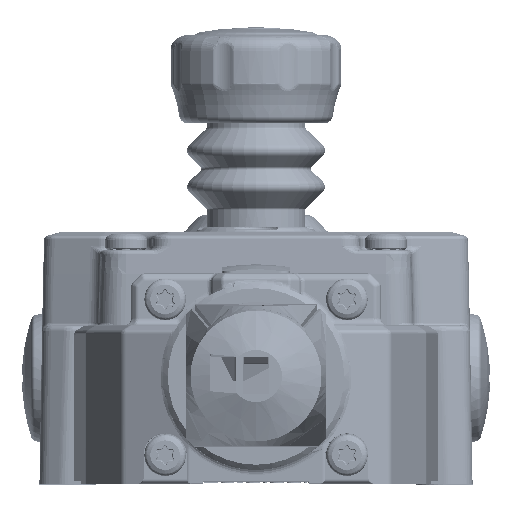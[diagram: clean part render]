
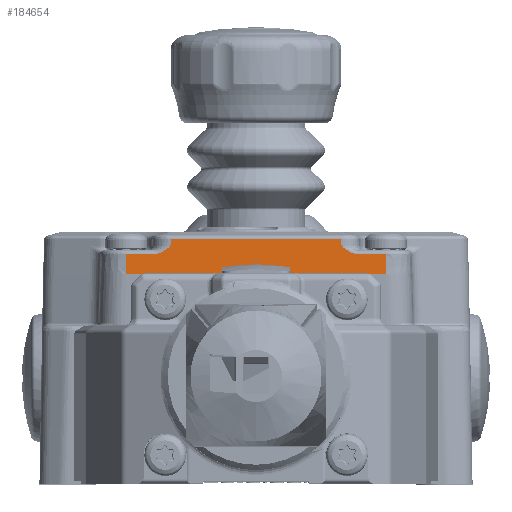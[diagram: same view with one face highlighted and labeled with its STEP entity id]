
A CAD part, top view. The second image highlights one B-rep face of the part: STEP entity #184654.
In plain terms, the highlighted planar face has unit normal (0, 0.035, 0.999).
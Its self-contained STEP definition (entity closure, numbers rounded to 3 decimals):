
#10689=DIRECTION('',(1.,0.,0.));
#10690=VECTOR('',#10689,2.417);
#10691=CARTESIAN_POINT('',(-21.586,20.,0.));
#10692=LINE('',#10691,#10690);
#10721=DIRECTION('',(1.,0.,0.));
#10722=VECTOR('',#10721,31.662);
#10723=CARTESIAN_POINT('',(-15.831,20.,0.));
#10724=LINE('',#10723,#10722);
#10753=DIRECTION('',(1.,0.,0.));
#10754=VECTOR('',#10753,2.417);
#10755=CARTESIAN_POINT('',(19.169,20.,0.));
#10756=LINE('',#10755,#10754);
#10933=DIRECTION('',(0.,-0.999,0.035));
#10934=VECTOR('',#10933,3.73);
#10935=CARTESIAN_POINT('',(-25.,23.728,
-0.13));
#10936=LINE('',#10935,#10934);
#10940=DIRECTION('',(1.,0.,0.));
#10941=VECTOR('',#10940,5.224);
#10942=CARTESIAN_POINT('',(-25.,23.728,
-0.13));
#10943=LINE('',#10942,#10941);
#10947=CARTESIAN_POINT('',(-19.776,23.728,
-0.13));
#10948=CARTESIAN_POINT('',(-19.713,23.728,
-0.13));
#10949=CARTESIAN_POINT('',(-19.584,23.732,
-0.13));
#10950=CARTESIAN_POINT('',(-19.385,23.753,
-0.131));
#10951=CARTESIAN_POINT('',(-19.178,23.788,
-0.132));
#10952=CARTESIAN_POINT('',(-18.959,23.839,
-0.134));
#10953=CARTESIAN_POINT('',(-18.728,23.91,
-0.137));
#10954=CARTESIAN_POINT('',(-18.482,24.001,
-0.14));
#10955=CARTESIAN_POINT('',(-18.221,24.117,
-0.144));
#10956=CARTESIAN_POINT('',(-17.937,24.263,
-0.149));
#10957=CARTESIAN_POINT('',(-17.626,24.446,
-0.155));
#10958=CARTESIAN_POINT('',(-17.28,24.673,
-0.163));
#10959=CARTESIAN_POINT('',(-16.905,24.947,
-0.173));
#10960=CARTESIAN_POINT('',(-16.621,25.152,
-0.18));
#10961=CARTESIAN_POINT('',(-16.475,25.264,
-0.184));
#10966=DIRECTION('',(0.031,0.999,-0.035));
#10967=VECTOR('',#10966,1.331);
#10968=CARTESIAN_POINT('',(-16.47,25.268,
-0.184));
#10969=LINE('',#10968,#10967);
#10973=DIRECTION('',(-1.,0.,0.));
#10974=VECTOR('',#10973,32.858);
#10975=CARTESIAN_POINT('',(16.429,26.597,
-0.23));
#10976=LINE('',#10975,#10974);
#10980=DIRECTION('',(0.035,-0.999,0.035));
#10981=VECTOR('',#10980,1.327);
#10982=CARTESIAN_POINT('',(16.429,26.597,
-0.23));
#10983=LINE('',#10982,#10981);
#10987=CARTESIAN_POINT('',(16.475,25.272,
-0.184));
#10988=CARTESIAN_POINT('',(16.621,25.159,
-0.18));
#10989=CARTESIAN_POINT('',(16.901,24.947,
-0.173));
#10990=CARTESIAN_POINT('',(17.281,24.673,
-0.163));
#10991=CARTESIAN_POINT('',(17.628,24.445,
-0.155));
#10992=CARTESIAN_POINT('',(17.94,24.262,
-0.149));
#10993=CARTESIAN_POINT('',(18.224,24.116,
-0.144));
#10994=CARTESIAN_POINT('',(18.485,24.,
-0.14));
#10995=CARTESIAN_POINT('',(18.729,23.909,
-0.137));
#10996=CARTESIAN_POINT('',(18.96,23.839,
-0.134));
#10997=CARTESIAN_POINT('',(19.18,23.787,
-0.132));
#10998=CARTESIAN_POINT('',(19.388,23.752,
-0.131));
#10999=CARTESIAN_POINT('',(19.587,23.732,
-0.13));
#11000=CARTESIAN_POINT('',(19.714,23.728,
-0.13));
#11001=CARTESIAN_POINT('',(19.776,23.728,
-0.13));
#11006=DIRECTION('',(1.,0.,0.));
#11007=VECTOR('',#11006,5.224);
#11008=CARTESIAN_POINT('',(19.776,23.728,
-0.13));
#11009=LINE('',#11008,#11007);
#11013=DIRECTION('',(0.,-0.999,0.035));
#11014=VECTOR('',#11013,3.73);
#11015=CARTESIAN_POINT('',(25.,23.728,
-0.13));
#11016=LINE('',#11015,#11014);
#11058=DIRECTION('',(1.,0.,0.));
#11059=VECTOR('',#11058,3.412);
#11060=CARTESIAN_POINT('',(-24.998,20.,0.));
#11061=LINE('',#11060,#11059);
#11534=DIRECTION('',(1.,0.,0.));
#11535=VECTOR('',#11534,3.412);
#11536=CARTESIAN_POINT('',(21.586,20.,0.));
#11537=LINE('',#11536,#11535);
#11569=CARTESIAN_POINT('',(25.,20.,
0.));
#11627=CARTESIAN_POINT('',(24.998,20.,0.));
#11628=CARTESIAN_POINT('',(24.999,20.,0.));
#11629=CARTESIAN_POINT('',(24.999,20.,
0.));
#11630=CARTESIAN_POINT('',(25.,20.,
0.));
#11631=CARTESIAN_POINT('',(25.,20.,
0.));
#12608=CARTESIAN_POINT('',(16.475,25.272,
-0.184));
#13140=CARTESIAN_POINT('',(-25.,20.,
0.));
#13173=CARTESIAN_POINT('',(-24.998,20.,0.));
#13174=CARTESIAN_POINT('',(-24.999,20.,0.));
#13175=CARTESIAN_POINT('',(-24.999,20.,
0.));
#13176=CARTESIAN_POINT('',(-25.,20.,
0.));
#13177=CARTESIAN_POINT('',(-25.,20.,
0.));
#57090=DIRECTION('',(1.,0.,0.));
#57091=VECTOR('',#57090,3.338);
#57092=CARTESIAN_POINT('',(-19.169,20.,0.));
#57093=LINE('',#57092,#57091);
#57289=DIRECTION('',(1.,0.,0.));
#57290=VECTOR('',#57289,3.338);
#57291=CARTESIAN_POINT('',(15.831,20.,0.));
#57292=LINE('',#57291,#57290);
#168474=CARTESIAN_POINT('',(16.429,26.597,
-0.23));
#168475=CARTESIAN_POINT('',(-16.429,26.597,
-0.23));
#168476=VERTEX_POINT('',#168474);
#168477=VERTEX_POINT('',#168475);
#169181=CARTESIAN_POINT('',(25.,23.728,-0.13));
#169182=VERTEX_POINT('',#169181);
#169185=CARTESIAN_POINT('',(19.776,23.728,
-0.13));
#169186=VERTEX_POINT('',#169185);
#169187=VERTEX_POINT('',#12608);
#169188=VERTEX_POINT('',#10947);
#169189=VERTEX_POINT('',#10961);
#169194=CARTESIAN_POINT('',(-25.,23.728,
-0.13));
#169195=VERTEX_POINT('',#169194);
#170062=CARTESIAN_POINT('',(-24.998,20.,0.));
#170063=CARTESIAN_POINT('',(-21.586,20.,0.));
#170064=VERTEX_POINT('',#170062);
#170065=VERTEX_POINT('',#170063);
#170066=CARTESIAN_POINT('',(-19.169,20.,0.));
#170067=CARTESIAN_POINT('',(-15.831,20.,0.));
#170068=VERTEX_POINT('',#170066);
#170069=VERTEX_POINT('',#170067);
#170070=CARTESIAN_POINT('',(15.831,20.,0.));
#170071=CARTESIAN_POINT('',(19.169,20.,0.));
#170072=VERTEX_POINT('',#170070);
#170073=VERTEX_POINT('',#170071);
#170074=CARTESIAN_POINT('',(21.586,20.,0.));
#170075=CARTESIAN_POINT('',(24.998,20.,0.));
#170076=VERTEX_POINT('',#170074);
#170077=VERTEX_POINT('',#170075);
#170122=VERTEX_POINT('',#13140);
#170123=VERTEX_POINT('',#11569);
#184614=CARTESIAN_POINT('',(-32.555,20.,0.));
#184615=DIRECTION('',(0.,0.035,0.999));
#184616=DIRECTION('',(1.,0.,0.));
#184617=AXIS2_PLACEMENT_3D('',#184614,#184615,#184616);
#184618=PLANE('',#184617);
#184620=ORIENTED_EDGE('',*,*,#184619,.F.);
#184622=ORIENTED_EDGE('',*,*,#184621,.T.);
#184624=ORIENTED_EDGE('',*,*,#184623,.F.);
#184626=ORIENTED_EDGE('',*,*,#184625,.T.);
#184628=ORIENTED_EDGE('',*,*,#184627,.T.);
#184630=ORIENTED_EDGE('',*,*,#184629,.T.);
#184632=ORIENTED_EDGE('',*,*,#184631,.F.);
#184634=ORIENTED_EDGE('',*,*,#184633,.T.);
#184636=ORIENTED_EDGE('',*,*,#184635,.T.);
#184638=ORIENTED_EDGE('',*,*,#184637,.T.);
#184640=ORIENTED_EDGE('',*,*,#184639,.T.);
#184642=ORIENTED_EDGE('',*,*,#184641,.F.);
#184644=ORIENTED_EDGE('',*,*,#184643,.F.);
#184645=ORIENTED_EDGE('',*,*,#184558,.F.);
#184647=ORIENTED_EDGE('',*,*,#184646,.F.);
#184648=ORIENTED_EDGE('',*,*,#184552,.F.);
#184650=ORIENTED_EDGE('',*,*,#184649,.F.);
#184651=ORIENTED_EDGE('',*,*,#184546,.F.);
#184652=EDGE_LOOP('',(#184620,#184622,#184624,#184626,#184628,#184630,#184632,
#184634,#184636,#184638,#184640,#184642,#184644,#184645,#184647,#184648,#184650,
#184651));
#184653=FACE_OUTER_BOUND('',#184652,.F.);
#10962=B_SPLINE_CURVE_WITH_KNOTS('',3,(#10947,#10948,#10949,#10950,#10951,
#10952,#10953,#10954,#10955,#10956,#10957,#10958,#10959,#10960,#10961),
.UNSPECIFIED.,.F.,.F.,(4,1,1,1,1,1,1,1,1,1,1,1,4),(0.,0.083,
0.167,0.25,0.333,0.417,0.5,
0.583,0.667,0.75,0.833,0.917,
1.),.UNSPECIFIED.);
#11002=B_SPLINE_CURVE_WITH_KNOTS('',3,(#10987,#10988,#10989,#10990,#10991,
#10992,#10993,#10994,#10995,#10996,#10997,#10998,#10999,#11000,#11001),
.UNSPECIFIED.,.F.,.F.,(4,1,1,1,1,1,1,1,1,1,1,1,4),(0.,0.083,
0.167,0.25,0.333,0.417,0.5,
0.583,0.667,0.75,0.833,0.917,
1.),.UNSPECIFIED.);
#11632=B_SPLINE_CURVE_WITH_KNOTS('',3,(#11627,#11628,#11629,#11630,#11631),
.UNSPECIFIED.,.F.,.F.,(4,1,4),(0.,0.5,1.),.UNSPECIFIED.);
#13178=B_SPLINE_CURVE_WITH_KNOTS('',3,(#13173,#13174,#13175,#13176,#13177),
.UNSPECIFIED.,.F.,.F.,(4,1,4),(0.,0.5,1.),.UNSPECIFIED.);
#184546=EDGE_CURVE('',#170065,#170068,#10692,.T.);
#184552=EDGE_CURVE('',#170069,#170072,#10724,.T.);
#184558=EDGE_CURVE('',#170073,#170076,#10756,.T.);
#184619=EDGE_CURVE('',#170064,#170065,#11061,.T.);
#184621=EDGE_CURVE('',#170064,#170122,#13178,.T.);
#184623=EDGE_CURVE('',#169195,#170122,#10936,.T.);
#184625=EDGE_CURVE('',#169195,#169188,#10943,.T.);
#184627=EDGE_CURVE('',#169188,#169189,#10962,.T.);
#184629=EDGE_CURVE('',#169189,#168477,#10969,.T.);
#184631=EDGE_CURVE('',#168476,#168477,#10976,.T.);
#184633=EDGE_CURVE('',#168476,#169187,#10983,.T.);
#184635=EDGE_CURVE('',#169187,#169186,#11002,.T.);
#184637=EDGE_CURVE('',#169186,#169182,#11009,.T.);
#184639=EDGE_CURVE('',#169182,#170123,#11016,.T.);
#184641=EDGE_CURVE('',#170077,#170123,#11632,.T.);
#184643=EDGE_CURVE('',#170076,#170077,#11537,.T.);
#184646=EDGE_CURVE('',#170072,#170073,#57292,.T.);
#184649=EDGE_CURVE('',#170068,#170069,#57093,.T.);
#184654=ADVANCED_FACE('',(#184653),#184618,.T.);
